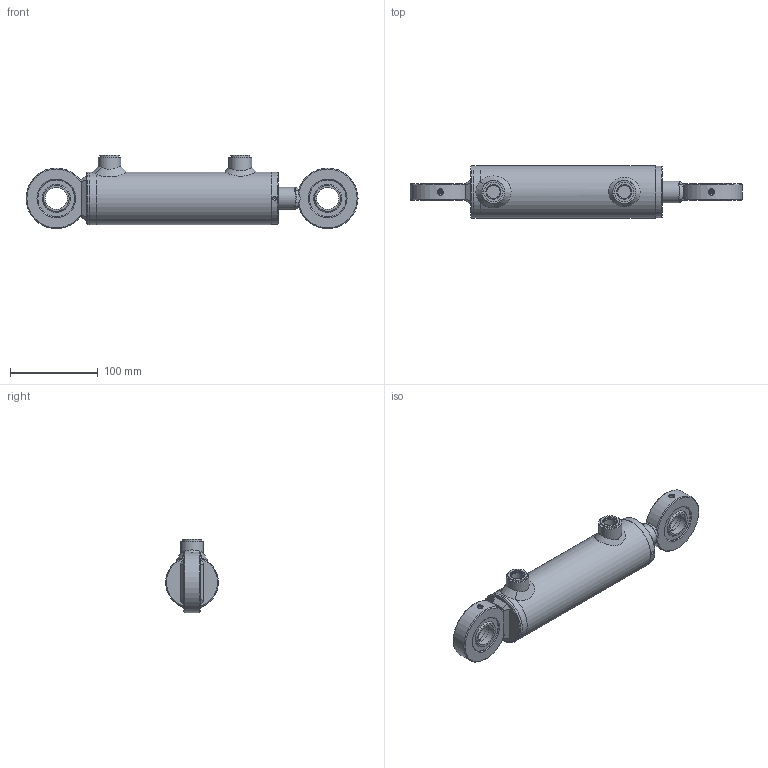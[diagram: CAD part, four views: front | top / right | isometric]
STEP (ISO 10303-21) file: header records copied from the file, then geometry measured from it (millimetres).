
FILE_DESCRIPTION( ( 'Unknown' ), '1' );
FILE_NAME( 'E:/LIBRERIA_3d/CILINDRI/HMC/HMC2250100.stp', 'Unknown', ( 'Unknown' ), ( 'Unknown' ), 'PSStep 17.0.49', 'Unknown', ' ' );
FILE_SCHEMA( ( 'AUTOMOTIVE_DESIGN { 1 0 10303 214 1 1 1 1 }' ) );
Length unit declared in the file: millimetre
Products named in the file (27): CG06005025; STL2500100-oa6; Saldatura d'angolo 1-oa4; FTM2500100-oa5; CBSC220600; CT00050020; CAGEG06904225; CAGE069042; cge0250000; HM02250100; Saldatura con preparazione 1-oa2; Saldatura d'angolo 1-oa3; CF00050060; CBS0600000; CDA0002015; APG0600000; SBL2520100; Assem1; Saldatura d'angolo 1-oa0; Saldatura d'angolo 2-oa1
Assembly tree (20 placements, depth 4):
  Saldatura d'angolo 1-oa4
  Saldatura d'angolo 1-oa4
  Saldatura d'angolo 1-oa3
  Saldatura d'angolo 1-oa3
  Assem1
    CAGEG06904225  x2
      CAGE069042
      cge0250000
    HM02250100
      Saldatura con preparazione 1-oa2
      Saldatura con preparazione 1-oa2
      CF00050060
      CBS0600000
      CDA0002015
      APG0600000  x2
      SBL2520100
      CT00050020
        CT00050020
      CG06005025
        CG06005025
      STL2500100-oa6
        FTM2500100-oa5
        CBSC220600
Bounding box: 378 x 60 x 83.5 mm (x, y, z)
Volume: 555948.1 mm3; surface area: 195151.8 mm2
Topology: 24 solids, 24 shells, 343 faces, 723 edges, 439 vertices
Faces by surface type: plane 98, bspline 82, cylinder 79, cone 42, torus 38, sphere 4
Full cylindrical faces by diameter (mm): 2 x4, 4 x2, 4.25 x1, 5 x4, 7 x2, 14.95 x2, 16 x2, 16.6 x2, 19.4 x1, 20 x5, 22 x2, 24.5 x1, 25 x8, 26 x2, 27 x1, 28 x1, 30 x1, 33.6 x1, 34 x1, 35 x1, 40 x2, 42 x6, 45 x1, 45.41 x2, 48.66 x2, 49.9 x1, 50 x1, 50.3 x1, 50.5 x1, 50.6 x1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
Entity records: 16905 total; most frequent: CARTESIAN_POINT 9145, DIRECTION 952, ORIENTED_EDGE 876, EDGE_LOOP 500, AXIS2_PLACEMENT_3D 442, EDGE_CURVE 438, FACE_OUTER_BOUND 407, VERTEX_POINT 333
